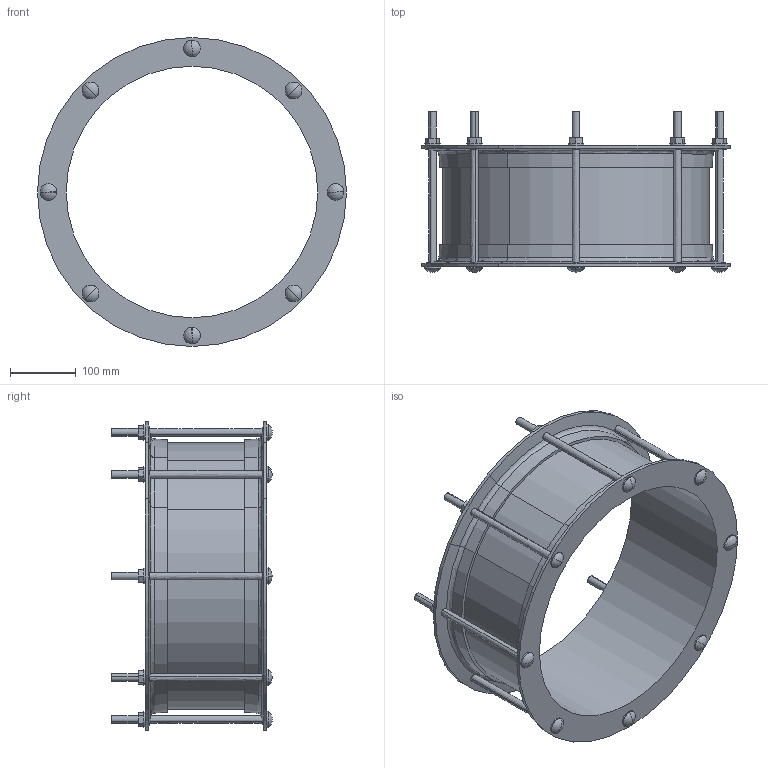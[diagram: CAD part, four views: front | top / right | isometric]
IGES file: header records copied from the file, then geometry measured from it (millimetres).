
Start section:  PTC IGES file: 378.igs
Global section: file name: 378.igs; native system: Creo Parametric by PTC Inc.; preprocessor: 2016130; author: mfairey; organization: Unknown; date: 20181205.160628; units: millimetre
Bounding box: 468.7 x 243.33 x 468.7 mm (x, y, z)
Surface area: 716993.7 mm2 (no closed solid volume)
Topology: 0 solids, 0 shells, 176 faces, 912 edges, 896 vertices
Faces by surface type: revolution 100, bspline 76
